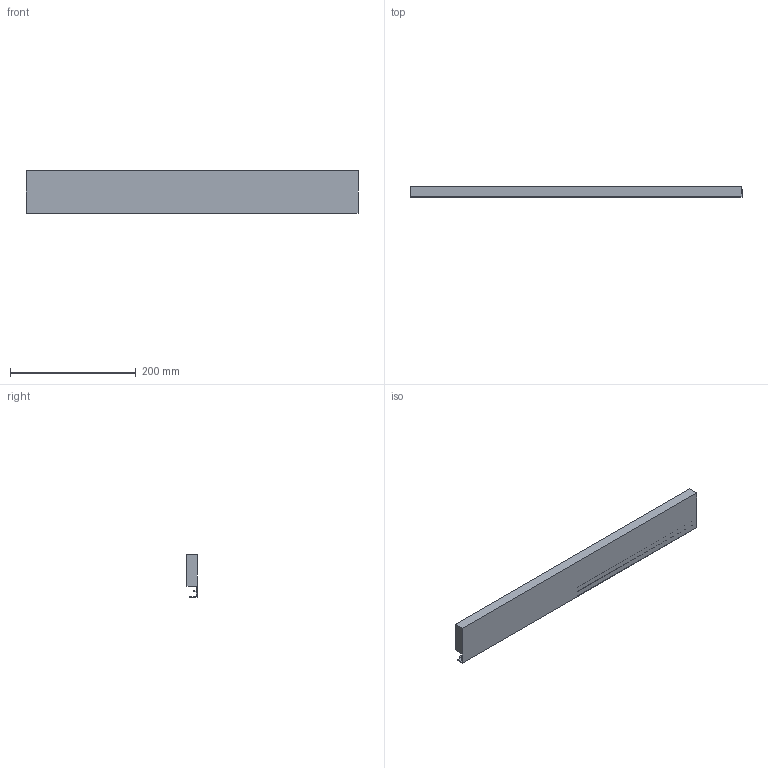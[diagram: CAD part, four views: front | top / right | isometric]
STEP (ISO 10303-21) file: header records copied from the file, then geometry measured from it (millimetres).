
FILE_DESCRIPTION (( 'STEP AP214' ), '1' );
FILE_NAME ('Innenschub-Blendenprofil_KAB650_S16.step', '2010-09-23T12:26:50', ( 'grass' ), ( '' ), 'SwSTEP 2.0', 'SolidWorks 2010', '' );
FILE_SCHEMA (( 'AUTOMOTIVE_DESIGN' ));
Length unit declared in the file: millimetre
Products named in the file (1): Innenschub-Blendenprofil_KAB650_S16
Bounding box: 527 x 15.9 x 67.6 mm (x, y, z)
Volume: 436956.7 mm3; surface area: 105090.4 mm2
Topology: 1 solids, 1 shells, 17 faces, 42 edges, 28 vertices
Faces by surface type: plane 15, cylinder 2
Entity records: 534 total; most frequent: CARTESIAN_POINT 88, ORIENTED_EDGE 84, DIRECTION 82, EDGE_CURVE 42, LINE 38, VECTOR 38, VERTEX_POINT 28, AXIS2_PLACEMENT_3D 22
